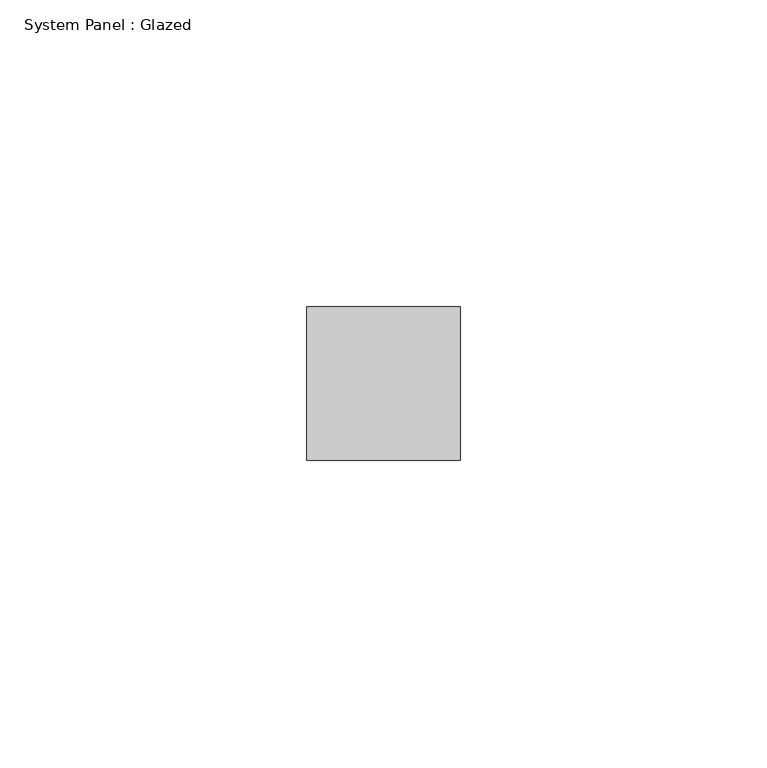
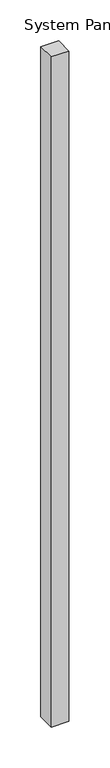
"""IFC4 building model written with IfcOpenShell, lengths in millimetres: plate geometry, System Panel : Glazed."""

from ifc_helpers import new_model, si_unit, origin, origin_with_axes, place, context, project, spatial, polyline, outline, extrude, source, transform, mapped, element, save


def system_panel_glazed_b3ad26ea(model_context):
    return source(origin(), model_context, "Body", "SweptSolid", [
        extrude(outline(polyline([(12.5, 24.5), (-12.5, 24.5), (-12.5, 49.5), (12.5, 49.5), (12.5, 24.5)])), origin_with_axes(), (0.0, 0.0, 1.0), 1000.0),
    ])


if __name__ == "__main__":
    model = new_model("IFC4")
    model_context = context("Model", 3, world=origin())
    ifc_project = project(units=[si_unit("LENGTHUNIT", "METRE", prefix="MILLI")], contexts=[model_context])
    site = spatial("IfcSite", under=ifc_project)
    building = spatial("IfcBuilding", under=site)
    placement = place(None, origin())
    system_panel_glazed_shape = system_panel_glazed_b3ad26ea(model_context)
    element("IfcPlate", 1, ObjectType="System Panel : Glazed", at=placement, inside=building, context=model_context, shape_type="MappedRepresentation", body=[
        mapped(system_panel_glazed_shape, transform((0.0, 0.0, 0.0), x_axis=(1.0, 0.0, 0.0), y_axis=(0.0, 1.0, 0.0), z_axis=(0.0, 0.0, 1.0))),
    ])
    save(model, "model.ifc")
